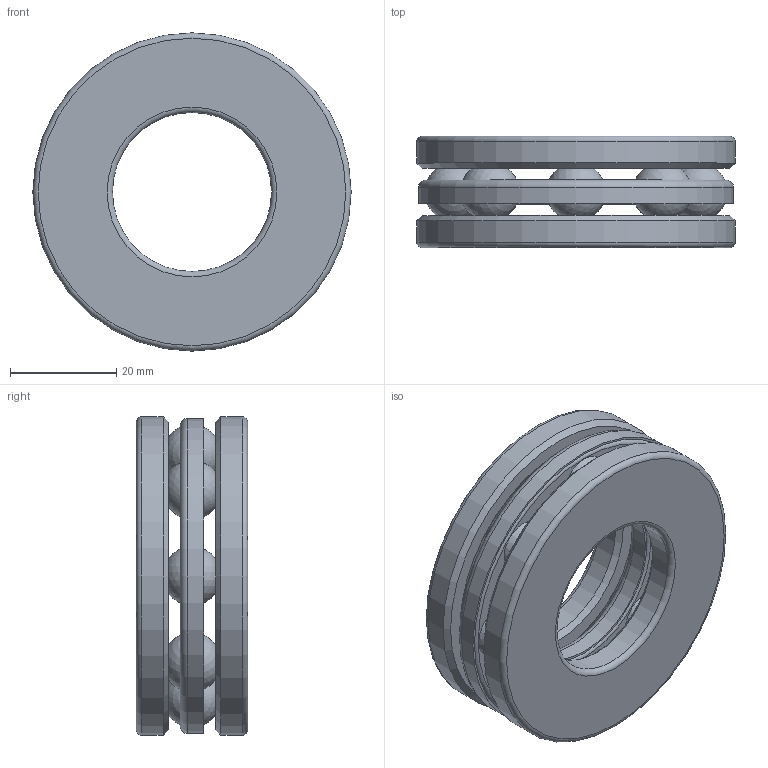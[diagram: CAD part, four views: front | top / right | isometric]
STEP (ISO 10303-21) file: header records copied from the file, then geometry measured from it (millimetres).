
FILE_DESCRIPTION(/* description */ (''),/* implementation_level */ '2;1');
FILE_NAME(/* name */ 'D:\moje\parametrické\513--\513--\51306.stp',/* time_stamp */ '2016-08-17T07:36:09+02:00',/* author */ ('OUBALASKO'),/* organization */ (''),/* preprocessor_version */ 'ST-DEVELOPER v15.6',/* originating_system */ 'Autodesk Inventor 2015',/* authorisation */ '');
FILE_SCHEMA (('AUTOMOTIVE_DESIGN { 1 0 10303 214 3 1 1 }'));
Length unit declared in the file: millimetre
Products named in the file (7): 51306-TK; 51306-HK; 51306-ball; 51306-cage01; 51306-cage02; 51306-cage; 51306
Assembly tree (13 placements, depth 3):
  51306
    51306-TK
    51306-HK
    51306-ball  x8
    51306-cage
      51306-cage01
      51306-cage02
Bounding box: 60 x 21 x 60 mm (x, y, z)
Volume: 30552.9 mm3; surface area: 22992.4 mm2
Topology: 12 solids, 12 shells, 68 faces, 130 edges, 92 vertices
Faces by surface type: sphere 24, plane 14, torus 14, cylinder 12, cone 4
Full cylindrical faces by diameter (mm): 30 x1, 32 x1, 32.577 x1, 33.355 x1, 33.61 x1, 34.388 x1, 57.612 x1, 58.39 x1, 58.645 x1, 59.423 x1, 60 x2
Entity records: 1672 total; most frequent: DIRECTION 316, CARTESIAN_POINT 236, AXIS2_PLACEMENT_3D 158, ORIENTED_EDGE 154, EDGE_LOOP 153, FACE_BOUND 92, VERTEX_POINT 78, CIRCLE 77
